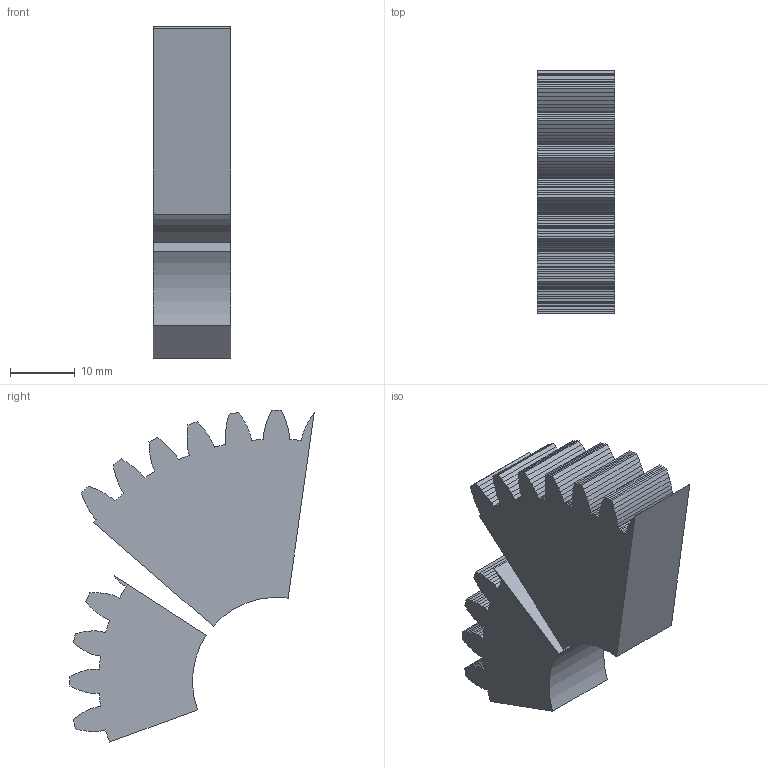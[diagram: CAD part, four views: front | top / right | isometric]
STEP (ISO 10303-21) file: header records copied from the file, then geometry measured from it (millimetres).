
FILE_DESCRIPTION(('Open CASCADE Model'),'2;1');
FILE_NAME('Open CASCADE Shape Model','2026-10-16T02:10:56',('Author'),( 'Open CASCADE'),'Open CASCADE STEP processor 7.9','Open CASCADE 7.9' ,'Unknown');
FILE_SCHEMA(('AUTOMOTIVE_DESIGN { 1 0 10303 214 1 1 1 1 }'));
Length unit declared in the file: millimetre
Products named in the file (3): Open CASCADE STEP translator 7.9 16; Open CASCADE STEP translator 7.9 16.1; Open CASCADE STEP translator 7.9 16.2
Assembly tree (2 placements, depth 2):
  Open CASCADE STEP translator 7.9 16
    Open CASCADE STEP translator 7.9 16.1
    Open CASCADE STEP translator 7.9 16.2
Bounding box: 12 x 37.85 x 51.41 mm (x, y, z)
Volume: 12374.9 mm3; surface area: 5053.3 mm2
Topology: 2 solids, 2 shells, 281 faces, 831 edges, 554 vertices
Faces by surface type: plane 279, cylinder 2
Entity records: 20013 total; most frequent: CARTESIAN_POINT 3381, DIRECTION 3030, LINE 2453, VECTOR 2453, ORIENTED_EDGE 1662, PCURVE 1662, DEFINITIONAL_REPRESENTATION 1662, EDGE_CURVE 831
